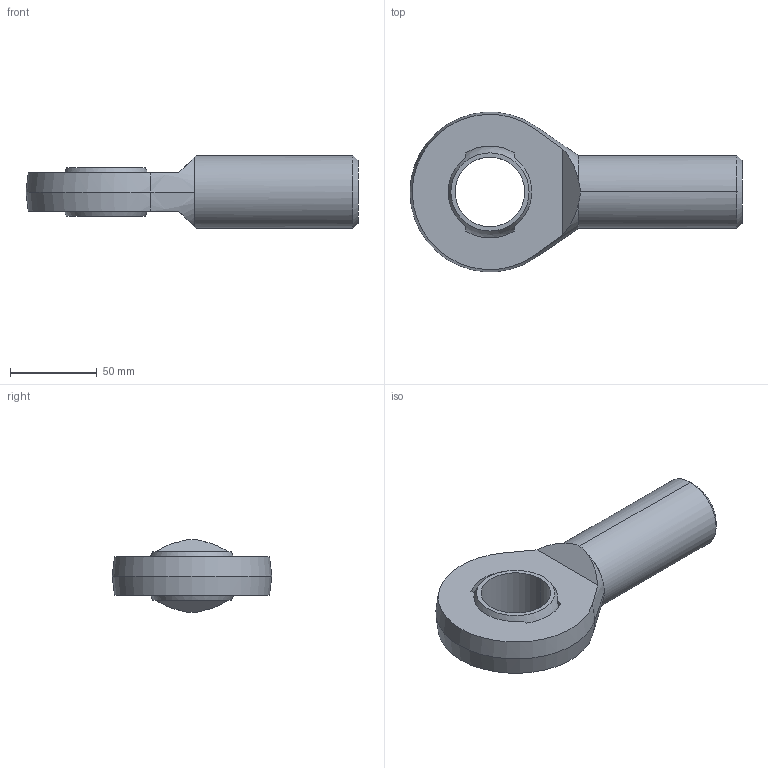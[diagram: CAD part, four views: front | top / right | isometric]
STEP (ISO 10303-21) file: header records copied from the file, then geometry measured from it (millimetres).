
FILE_DESCRIPTION (( 'STEP AP203' ), '1' );
FILE_NAME ('65860.W0040.step', '2014-02-06T11:44:45', ( 'User' ), ( '' ), 'SwSTEP 2.0', 'SolidWorks 2009', '' );
FILE_SCHEMA (( 'CONFIG_CONTROL_DESIGN' ));
Length unit declared in the file: millimetre
Products named in the file (3): 65860.W0040; Part1_65860.W0040; Part2_65860.W0040
Assembly tree (2 placements, depth 2):
  65860.W0040
    Part1_65860.W0040
    Part2_65860.W0040
Bounding box: 191 x 91.78 x 42 mm (x, y, z)
Volume: 259073.9 mm3; surface area: 41680.2 mm2
Topology: 2 solids, 2 shells, 36 faces, 88 edges, 56 vertices
Faces by surface type: plane 15, sphere 8, cylinder 8, cone 5
Entity records: 1416 total; most frequent: CARTESIAN_POINT 273, DIRECTION 193, ORIENTED_EDGE 172, EDGE_CURVE 86, AXIS2_PLACEMENT_3D 84, VERTEX_POINT 56, CIRCLE 43, EDGE_LOOP 42
